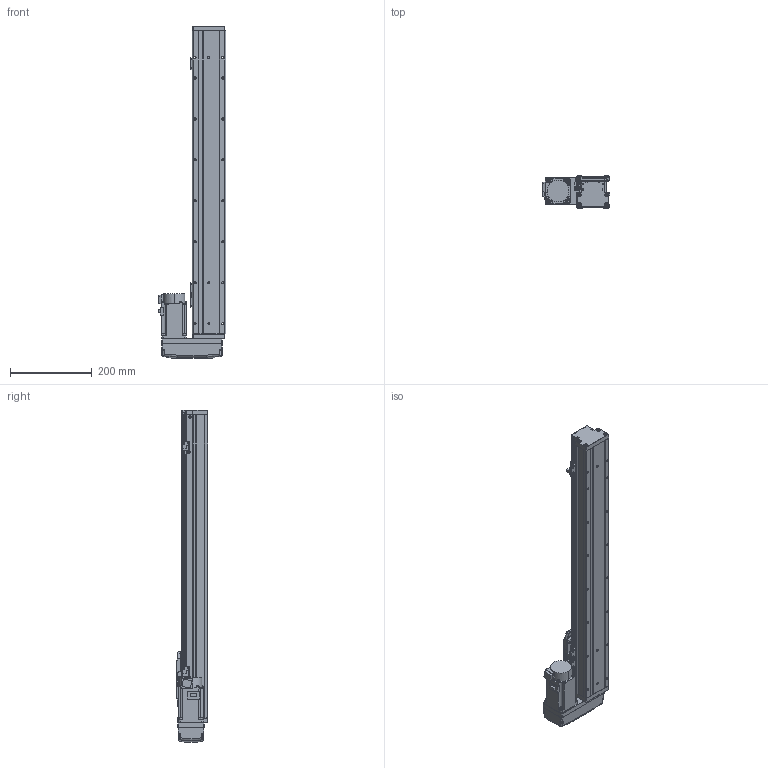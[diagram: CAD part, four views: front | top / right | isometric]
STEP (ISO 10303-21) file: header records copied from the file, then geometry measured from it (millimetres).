
FILE_DESCRIPTION (( 'STEP AP203' ), '1' );
FILE_NAME ('GTH8-550-BL-M20-C4.step', '2022-09-23T01:00:43', ( '微软用户' ), ( '微软中国' ), 'SwSTEP 2.0', 'SolidWorks 2020', '' );
FILE_SCHEMA (( 'CONFIG_CONTROL_DESIGN' ));
Length unit declared in the file: millimetre
Products named in the file (18): GTH80-003; GBT 70.1-M4×16; CTHA86-015-1_CTHA86-015-2; GTH80-004; GTH80-028; CTHA86-033_M40B; GTH80-006; GTH50-024; GTH8-550-BL-M20-C4; GTH80-013; GTH50-023; GBT 70.3-M3℅6; GBT96.1-2002 3×0.8; GTH80-022; BTH-M3X5X6; GTH80-001_550; GBT 70.1-M3℅6; hg-kn43j_-s100_
Assembly tree (57 placements, depth 2):
  GTH8-550-BL-M20-C4
    GTH80-001_550
    GTH80-003
    GTH80-004
    GTH80-006
    GTH80-013
    GBT 70.3-M3℅6  x4
    GTH80-022
    GBT 70.1-M3℅6  x14
    GBT 70.1-M4×16  x8
    GTH80-028  x2
    GTH50-024  x3
    GTH50-023  x3
    GBT96.1-2002 3×0.8  x6
    BTH-M3X5X6  x8
    hg-kn43j_-s100_
    CTHA86-015-1_CTHA86-015-2
    CTHA86-033_M40B
Bounding box: 164.8 x 78 x 811 mm (x, y, z)
Volume: 4193602.7 mm3; surface area: 446927.4 mm2
Topology: 59 solids, 59 shells, 2240 faces, 5175 edges, 3171 vertices
Faces by surface type: plane 1187, cylinder 611, cone 260, torus 166, bspline 8, sphere 8
Entity records: 40922 total; most frequent: CARTESIAN_POINT 7193, DIRECTION 6649, ORIENTED_EDGE 6168, EDGE_CURVE 3084, AXIS2_PLACEMENT_3D 2325, LINE 1999, VECTOR 1999, VERTEX_POINT 1946
